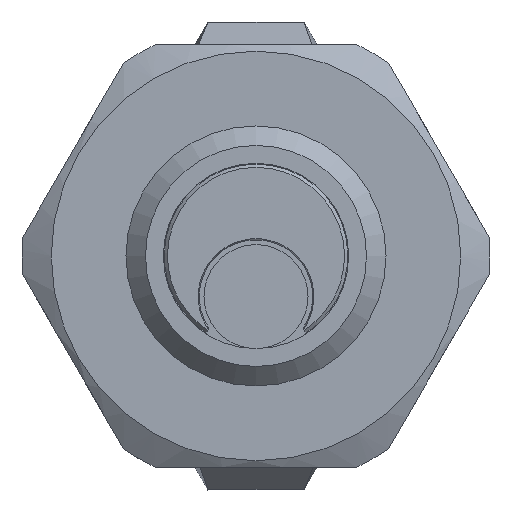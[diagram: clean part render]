
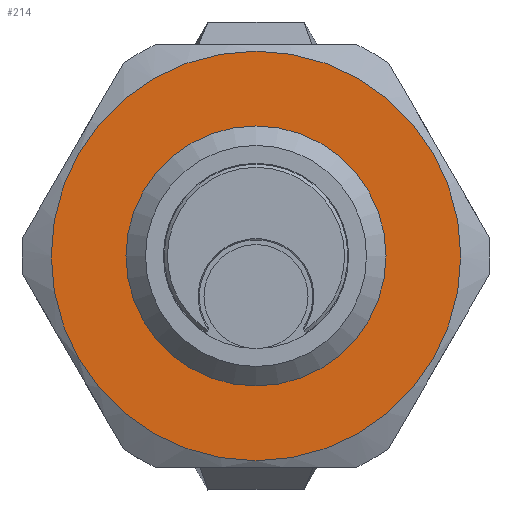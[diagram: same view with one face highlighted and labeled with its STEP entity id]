
A CAD part, left-side view. The second image highlights one B-rep face of the part: STEP entity #214.
In plain terms, the highlighted planar face has unit normal (-1, 0, 0) as drawn and (0, 1, 0) by its records, which use the part's own axes.
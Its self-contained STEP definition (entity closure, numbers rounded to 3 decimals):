
#214 = ADVANCED_FACE( '', ( #300, #301 ), #302, .T. );
#300 = FACE_BOUND( '', #394, .T. );
#301 = FACE_OUTER_BOUND( '', #395, .T. );
#302 = PLANE( '', #396 );
#394 = EDGE_LOOP( '', ( #640 ) );
#395 = EDGE_LOOP( '', ( #641 ) );
#396 = AXIS2_PLACEMENT_3D( '', #642, #643, #644 );
#640 = ORIENTED_EDGE( '', *, *, #732, .T. );
#641 = ORIENTED_EDGE( '', *, *, #706, .F. );
#642 = CARTESIAN_POINT( '', ( 0., 2., 0. ) );
#643 = DIRECTION( '', ( 0., 1., 0. ) );
#644 = DIRECTION( '', ( 0., 0., 1. ) );
#706 = EDGE_CURVE( '', #812, #812, #813, .T. );
#732 = EDGE_CURVE( '', #852, #852, #853, .F. );
#812 = VERTEX_POINT( '', #986 );
#813 = CIRCLE( '', #987, 6.3 );
#852 = VERTEX_POINT( '', #1106 );
#853 = CIRCLE( '', #1107, 3.959 );
#986 = CARTESIAN_POINT( '', ( 0., 2., -6.3 ) );
#987 = AXIS2_PLACEMENT_3D( '', #1185, #1186, #1187 );
#1106 = CARTESIAN_POINT( '', ( 0., 2., 3.959 ) );
#1107 = AXIS2_PLACEMENT_3D( '', #1221, #1222, #1223 );
#1185 = CARTESIAN_POINT( '', ( 0., 2., 0. ) );
#1186 = DIRECTION( '', ( 0., -1., 0. ) );
#1187 = DIRECTION( '', ( 0., 0., -1. ) );
#1221 = CARTESIAN_POINT( '', ( 0., 2., 0. ) );
#1222 = DIRECTION( '', ( 0., 1., 0. ) );
#1223 = DIRECTION( '', ( 0., 0., 1. ) );
